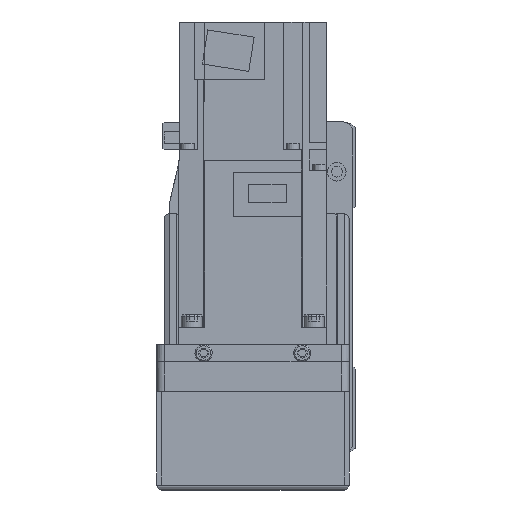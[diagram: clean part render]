
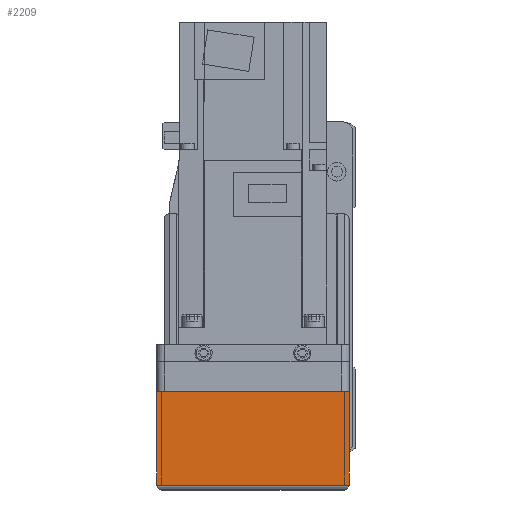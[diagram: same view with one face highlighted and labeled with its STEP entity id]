
A CAD part, left-side view. The second image highlights one B-rep face of the part: STEP entity #2209.
In plain terms, the highlighted planar face has unit normal (-1, 0, 0).
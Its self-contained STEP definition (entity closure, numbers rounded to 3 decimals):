
#2209 = ADVANCED_FACE( '', ( #5063 ), #5064, .F. );
#5063 = FACE_OUTER_BOUND( '', #8680, .T. );
#5064 = PLANE( '', #8681 );
#8680 = EDGE_LOOP( '', ( #14941, #14942, #14943, #14944 ) );
#8681 = AXIS2_PLACEMENT_3D( '', #14945, #14946, #14947 );
#14941 = ORIENTED_EDGE( '', *, *, #22421, .F. );
#14942 = ORIENTED_EDGE( '', *, *, #22189, .F. );
#14943 = ORIENTED_EDGE( '', *, *, #20882, .T. );
#14944 = ORIENTED_EDGE( '', *, *, #22422, .F. );
#14945 = CARTESIAN_POINT( '', ( -158., 36., 7. ) );
#14946 = DIRECTION( '', ( 1., 0., 0. ) );
#14947 = DIRECTION( '', ( 0., 0., -1. ) );
#20882 = EDGE_CURVE( '', #25096, #25098, #25100, .T. );
#22189 = EDGE_CURVE( '', #25096, #25892, #27204, .T. );
#22421 = EDGE_CURVE( '', #25892, #26408, #27534, .T. );
#22422 = EDGE_CURVE( '', #26408, #25098, #27535, .T. );
#25096 = VERTEX_POINT( '', #31160 );
#25098 = VERTEX_POINT( '', #31162 );
#25100 = LINE( '', #31164, #31165 );
#25892 = VERTEX_POINT( '', #32321 );
#26408 = VERTEX_POINT( '', #33305 );
#27204 = LINE( '', #34574, #34575 );
#27534 = LINE( '', #35099, #35100 );
#27535 = LINE( '', #35101, #35102 );
#31160 = CARTESIAN_POINT( '', ( -158., 39., -50. ) );
#31162 = CARTESIAN_POINT( '', ( -158., -39., -50. ) );
#31164 = CARTESIAN_POINT( '', ( -158., 40., -50. ) );
#31165 = VECTOR( '', #38774, 1000. );
#32321 = CARTESIAN_POINT( '', ( -158., 39., -12.1 ) );
#33305 = CARTESIAN_POINT( '', ( -158., -39., -12.1 ) );
#34574 = CARTESIAN_POINT( '', ( -158., 39., -50. ) );
#34575 = VECTOR( '', #40390, 1000. );
#35099 = CARTESIAN_POINT( '', ( -158., 50., -12.1 ) );
#35100 = VECTOR( '', #40654, 1000. );
#35101 = CARTESIAN_POINT( '', ( -158., -39., -12.1 ) );
#35102 = VECTOR( '', #40655, 1000. );
#38774 = DIRECTION( '', ( 0., -1., 0. ) );
#40390 = DIRECTION( '', ( 0., 0., 1. ) );
#40654 = DIRECTION( '', ( 0., -1., 0. ) );
#40655 = DIRECTION( '', ( 0., 0., -1. ) );
